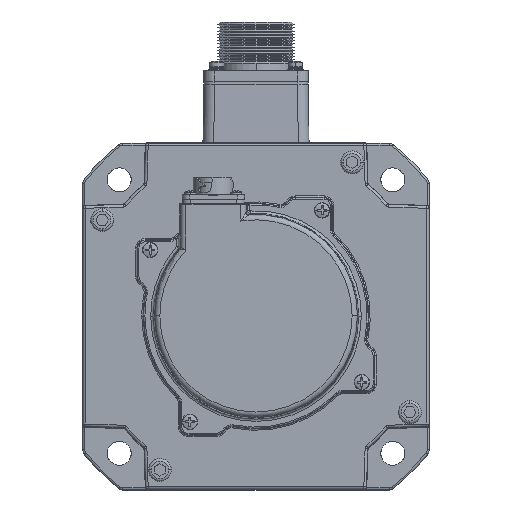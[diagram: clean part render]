
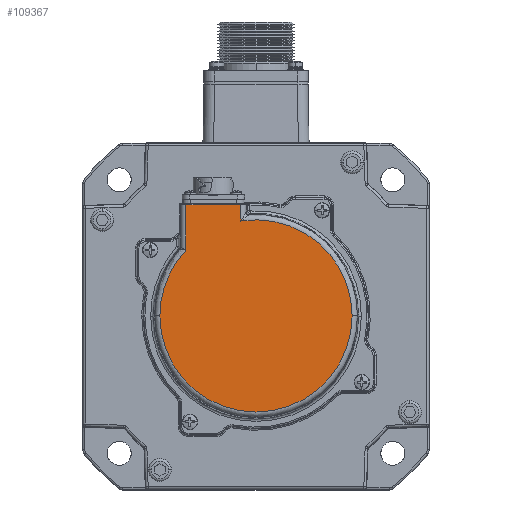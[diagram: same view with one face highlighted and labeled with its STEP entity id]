
A CAD part, top view. The second image highlights one B-rep face of the part: STEP entity #109367.
In plain terms, the highlighted planar face has unit normal (0, 0, 1).
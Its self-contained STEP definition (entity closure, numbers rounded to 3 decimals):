
#3338 = ORIENTED_EDGE ( 'NONE', *, *, #56640, .T. ) ;
#4502 = CARTESIAN_POINT ( 'NONE',  ( 27.163, -56.273, -30.037 ) ) ;
#6604 = VECTOR ( 'NONE', #115134, 1000. ) ;
#9504 = CARTESIAN_POINT ( 'NONE',  ( -8.872, -56.273, -30.037 ) ) ;
#13354 = CIRCLE ( 'NONE', #24275, 36.035 ) ;
#15780 = CARTESIAN_POINT ( 'NONE',  ( -8.872, -14.523, -30.037 ) ) ;
#18728 = VERTEX_POINT ( 'NONE', #106575 ) ;
#19585 = CARTESIAN_POINT ( 'NONE',  ( -8.872, -56.273, -30.037 ) ) ;
#24275 = AXIS2_PLACEMENT_3D ( 'NONE', #86987, #29657, #96524 ) ;
#25308 = DIRECTION ( 'NONE',  ( 0., 0., 1. ) ) ;
#27902 = EDGE_CURVE ( 'NONE', #45463, #64750, #32396, .T. ) ;
#29176 = DIRECTION ( 'NONE',  ( -1., 0., 0. ) ) ;
#29657 = DIRECTION ( 'NONE',  ( 0., 0., 1. ) ) ;
#32396 = CIRCLE ( 'NONE', #56219, 36.035 ) ;
#35549 = CARTESIAN_POINT ( 'NONE',  ( -35.157, -14.523, -30.037 ) ) ;
#37323 = EDGE_CURVE ( 'NONE', #61998, #45463, #42216, .T. ) ;
#40727 = CARTESIAN_POINT ( 'NONE',  ( -35.157, -31.624, -30.037 ) ) ;
#41340 = ORIENTED_EDGE ( 'NONE', *, *, #83928, .T. ) ;
#42216 = LINE ( 'NONE', #84592, #48209 ) ;
#44069 = VECTOR ( 'NONE', #82700, 1000. ) ;
#45463 = VERTEX_POINT ( 'NONE', #40727 ) ;
#45900 = CARTESIAN_POINT ( 'NONE',  ( -14.587, -20.695, -30.037 ) ) ;
#47956 = PLANE ( 'NONE',  #104603 ) ;
#48209 = VECTOR ( 'NONE', #111802, 1000. ) ;
#49919 = CIRCLE ( 'NONE', #85022, 36.035 ) ;
#51340 = EDGE_LOOP ( 'NONE', ( #61034, #41340, #79091, #76640, #3338, #76790 ) ) ;
#53699 = VERTEX_POINT ( 'NONE', #4502 ) ;
#56219 = AXIS2_PLACEMENT_3D ( 'NONE', #82622, #25308, #92155 ) ;
#56640 = EDGE_CURVE ( 'NONE', #64750, #53699, #13354, .T. ) ;
#57550 = DIRECTION ( 'NONE',  ( -1., 0., 0. ) ) ;
#61034 = ORIENTED_EDGE ( 'NONE', *, *, #65470, .T. ) ;
#61468 = FACE_OUTER_BOUND ( 'NONE', #51340, .T. ) ;
#61998 = VERTEX_POINT ( 'NONE', #35549 ) ;
#64750 = VERTEX_POINT ( 'NONE', #90627 ) ;
#65470 = EDGE_CURVE ( 'NONE', #104596, #18728, #82942, .T. ) ;
#65915 = EDGE_CURVE ( 'NONE', #53699, #104596, #49919, .T. ) ;
#76640 = ORIENTED_EDGE ( 'NONE', *, *, #27902, .T. ) ;
#76790 = ORIENTED_EDGE ( 'NONE', *, *, #65915, .T. ) ;
#79091 = ORIENTED_EDGE ( 'NONE', *, *, #37323, .T. ) ;
#82622 = CARTESIAN_POINT ( 'NONE',  ( -8.872, -56.273, -30.037 ) ) ;
#82700 = DIRECTION ( 'NONE',  ( -1., 0., 0. ) ) ;
#82942 = LINE ( 'NONE', #95874, #6604 ) ;
#83928 = EDGE_CURVE ( 'NONE', #18728, #61998, #91968, .T. ) ;
#84592 = CARTESIAN_POINT ( 'NONE',  ( -35.157, -56.273, -30.037 ) ) ;
#85022 = AXIS2_PLACEMENT_3D ( 'NONE', #19585, #86482, #29176 ) ;
#86482 = DIRECTION ( 'NONE',  ( 0., 0., 1. ) ) ;
#86987 = CARTESIAN_POINT ( 'NONE',  ( -8.872, -56.273, -30.037 ) ) ;
#90627 = CARTESIAN_POINT ( 'NONE',  ( -44.907, -56.273, -30.037 ) ) ;
#91968 = LINE ( 'NONE', #15780, #44069 ) ;
#92155 = DIRECTION ( 'NONE',  ( -1., 0., 0. ) ) ;
#95874 = CARTESIAN_POINT ( 'NONE',  ( -14.587, -56.273, -30.037 ) ) ;
#96524 = DIRECTION ( 'NONE',  ( -1., 0., 0. ) ) ;
#104596 = VERTEX_POINT ( 'NONE', #45900 ) ;
#104603 = AXIS2_PLACEMENT_3D ( 'NONE', #9504, #114880, #57550 ) ;
#106575 = CARTESIAN_POINT ( 'NONE',  ( -14.587, -14.523, -30.037 ) ) ;
#109367 = ADVANCED_FACE ( 'NONE', ( #61468 ), #47956, .T. ) ;
#111802 = DIRECTION ( 'NONE',  ( 0., -1., 0. ) ) ;
#114880 = DIRECTION ( 'NONE',  ( 0., 0., 1. ) ) ;
#115134 = DIRECTION ( 'NONE',  ( 0., 1., 0. ) ) ;
